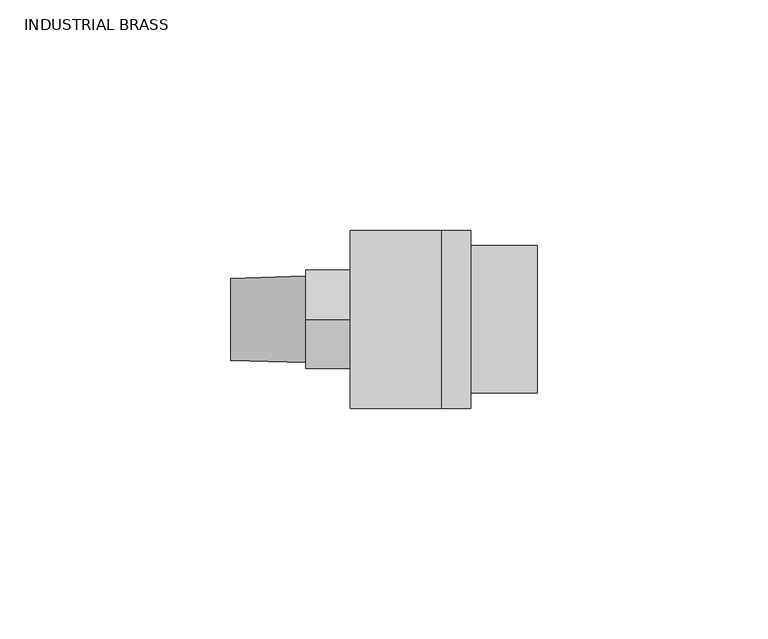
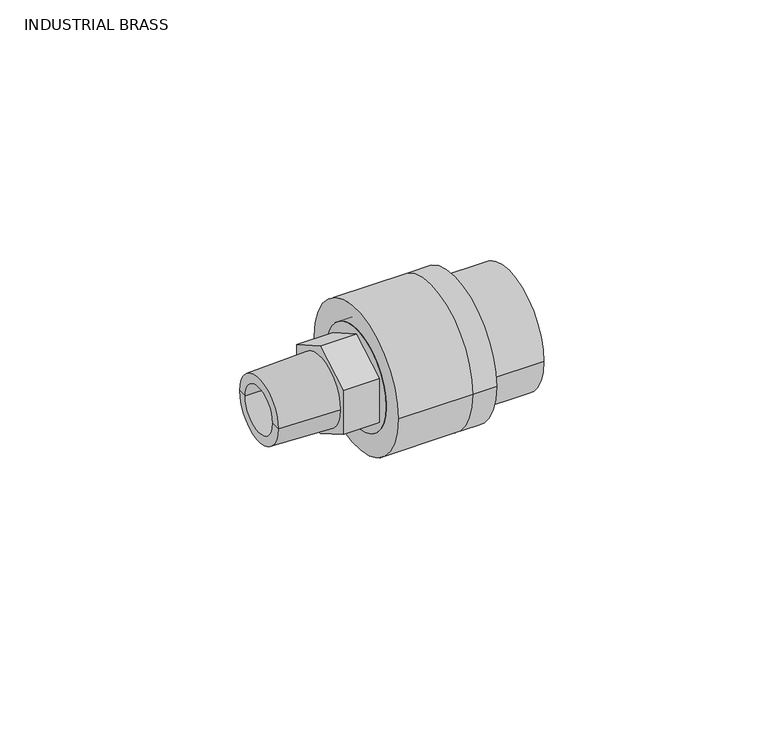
"""IFC4 building model written with IfcOpenShell, lengths in millimetres: valve geometry, Aquatherm - Transition Piece - M HEX : INDUSTRIAL BRASS."""

from ifc_helpers import new_model, si_unit, frame, origin, place, context, project, spatial, polyline, circle_curve, source, transform, mapped, element, save
from ifc_brep_helpers import plane_surface, cylinder_surface, revolved_surface, advanced_brep


def industrial_brass_5db29cf0(model_context):
    return source(origin(), model_context, "Body", "AdvancedBrep", [
        advanced_brep(
        [(19.812, -13.589, 0.0), (19.812, 13.589, 0.0), (19.812, -6.35, 0.0), (19.812, 6.35, 0.0), (0.0, -13.589, 0.0), (0.0, 13.589, 0.0), (0.0, 0.0, -12.3183453), (0.0, 10.668, -6.1591727), (0.0, 10.668, 6.1591727), (0.0, 0.0, 12.3183453), (0.0, -10.668, 6.1591727), (0.0, -10.668, -6.1591727), (0.0, -6.35, 0.0), (0.0, 6.35, 0.0), (-9.652, 0.0, -12.3183453), (-9.652, -10.668, -6.1591727), (-9.652, -10.668, 6.1591727), (-9.652, 0.0, 12.3183453), (-9.652, 10.668, 6.1591727), (-9.652, 10.668, -6.1591727), (-9.652, -9.3810449, 0.0), (-9.652, 9.3810449, 0.0), (-9.652, -6.35, 0.0), (-9.652, 6.35, 0.0), (-25.908, 6.35, 0.0), (-25.908, -6.35, 0.0), (-25.908, 8.8752051, 0.0), (-25.908, -8.8752051, 0.0)],
        [
            (0, 1, circle_curve(frame((19.812, 0.0, 0.0), z_axis=(1.0, 0.0, 0.0), x_axis=(0.0, 1.0, 0.0)), 13.589)),
            (1, 0, circle_curve(frame((19.812, 0.0, 0.0), z_axis=(1.0, 0.0, 0.0), x_axis=(0.0, 1.0, 0.0)), 13.589)),
            (2, 3, circle_curve(frame((19.812, 0.0, 0.0), z_axis=(-1.0, 0.0, 0.0), x_axis=(0.0, 1.0, 0.0)), 6.35)),
            (3, 2, circle_curve(frame((19.812, 0.0, 0.0), z_axis=(-1.0, 0.0, 0.0), x_axis=(0.0, 1.0, 0.0)), 6.35)),
            (4, 5, circle_curve(frame((0.0, 0.0, 0.0), z_axis=(-1.0, 0.0, 0.0), x_axis=(0.0, 1.0, 0.0)), 13.589)),
            (5, 4, circle_curve(frame((0.0, 0.0, 0.0), z_axis=(-1.0, 0.0, 0.0), x_axis=(0.0, 1.0, 0.0)), 13.589)),
            (6, 7),
            (7, 8),
            (8, 9),
            (9, 10),
            (10, 11),
            (11, 6),
            (0, 4),
            (5, 1),
            (2, 12),
            (12, 13, circle_curve(frame((0.0, 0.0, 0.0), z_axis=(-1.0, 0.0, 0.0), x_axis=(0.0, 1.0, 0.0)), 6.35)),
            (13, 3),
            (13, 12, circle_curve(frame((0.0, 0.0, 0.0), z_axis=(-1.0, 0.0, 0.0), x_axis=(0.0, 1.0, 0.0)), 6.35)),
            (14, 15),
            (15, 16),
            (16, 17),
            (17, 18),
            (18, 19),
            (19, 14),
            (20, 21, circle_curve(frame((-9.652, 0.0, 0.0), z_axis=(1.0, 0.0, 0.0), x_axis=(0.0, 1.0, 0.0)), 9.3810449)),
            (21, 20, circle_curve(frame((-9.652, 0.0, 0.0), z_axis=(1.0, 0.0, 0.0), x_axis=(0.0, 1.0, 0.0)), 9.3810449)),
            (19, 7),
            (6, 14),
            (18, 8),
            (17, 9),
            (16, 10),
            (15, 11),
            (12, 22),
            (22, 23, circle_curve(frame((-9.652, 0.0, 0.0), z_axis=(-1.0, 0.0, 0.0), x_axis=(0.0, 1.0, 0.0)), 6.35)),
            (23, 13),
            (23, 22, circle_curve(frame((-9.652, 0.0, 0.0), z_axis=(-1.0, 0.0, 0.0), x_axis=(0.0, 1.0, 0.0)), 6.35)),
            (23, 24),
            (24, 25, circle_curve(frame((-25.908, 0.0, 0.0), z_axis=(-1.0, 0.0, 0.0), x_axis=(0.0, 1.0, 0.0)), 6.35)),
            (25, 22),
            (25, 24, circle_curve(frame((-25.908, 0.0, 0.0), z_axis=(-1.0, 0.0, 0.0), x_axis=(0.0, 1.0, 0.0)), 6.35)),
            (24, 26),
            (26, 27, circle_curve(frame((-25.908, 0.0, 0.0), z_axis=(-1.0, 0.0, 0.0), x_axis=(0.0, 1.0, 0.0)), 8.8752051)),
            (27, 25),
            (27, 26, circle_curve(frame((-25.908, 0.0, 0.0), z_axis=(-1.0, 0.0, 0.0), x_axis=(0.0, 1.0, 0.0)), 8.8752051)),
            (26, 21),
            (20, 27),
        ],
        [
            plane_surface(frame((19.812, 13.589, 0.0), z_axis=(1.0, 0.0, 0.0), x_axis=(0.0, 0.0, 1.0))),
            plane_surface(frame((0.0, 13.589, 0.0), z_axis=(-1.0, 0.0, 0.0), x_axis=(0.0, 0.0, -1.0))),
            cylinder_surface(frame((0.0, 0.0, 0.0), z_axis=(1.0, 0.0, 0.0), x_axis=(0.0, 1.0, 0.0)), 13.589),
            revolved_surface(polyline([(0.0, 6.35, 0.0), (19.812, 6.35, 0.0)]), (17.447219, 0.0, 0.0), (-1.0, 0.0, 0.0)),
            plane_surface(frame((-9.652, 0.0, -12.3183453), z_axis=(-1.0, 0.0, 0.0), x_axis=(0.0, -0.8660254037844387, -0.49999999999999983))),
            plane_surface(frame((0.0, 0.0, -12.3183453), z_axis=(0.0, 0.49999999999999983, -0.8660254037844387), x_axis=(-1.0, 0.0, 0.0))),
            plane_surface(frame((0.0, 10.668, -6.1591727), z_axis=(0.0, 1.0, 0.0), x_axis=(-1.0, 0.0, 0.0))),
            plane_surface(frame((0.0, 10.668, 6.1591727), z_axis=(0.0, 0.499999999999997, 0.8660254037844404), x_axis=(-1.0, 0.0, 0.0))),
            plane_surface(frame((0.0, 0.0, 12.3183453), z_axis=(0.0, -0.5000000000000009, 0.8660254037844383), x_axis=(-1.0, 0.0, 0.0))),
            plane_surface(frame((0.0, -10.668, 6.1591727), z_axis=(0.0, -1.0, 0.0), x_axis=(-1.0, 0.0, 0.0))),
            plane_surface(frame((0.0, -10.668, -6.1591727), z_axis=(0.0, -0.49999999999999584, -0.8660254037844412), x_axis=(-1.0, 0.0, 0.0))),
            revolved_surface(polyline([(-9.652, 6.35, 0.0), (0.0, 6.35, 0.0)]), (0.0, 0.0, 0.0), (-1.0, 0.0, 0.0)),
            revolved_surface(polyline([(-25.908, 6.35, 0.0), (-9.652000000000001, 6.35, 0.0)]), (-60.7810688, 0.0, 0.0), (-1.0, 0.0, 0.0)),
            plane_surface(frame((-25.908, 0.0, 0.0), z_axis=(-1.0, 0.0, 0.0), x_axis=(0.0, 1.0, 0.0))),
            revolved_surface(polyline([(-9.652, 9.3810449, 0.0), (-25.908, 8.8752051, 0.0)]), (-60.7810688, 0.0, 0.0), (-1.0, 0.0, 0.0)),
        ],
        [
            (0, [[1, 2], [3, 4]]),
            (1, [[5, 6], [7, 8, 9, 10, 11, 12]]),
            (2, [[-1, 13, -6, 14]]),
            (2, [[-2, -14, -5, -13]]),
            (3, [[-3, 15, 16, 17]]),
            (3, [[-4, -17, 18, -15]]),
            (4, [[19, 20, 21, 22, 23, 24], [25, 26]]),
            (5, [[-24, 27, -7, 28]]),
            (6, [[-23, 29, -8, -27]]),
            (7, [[-22, 30, -9, -29]]),
            (8, [[-21, 31, -10, -30]]),
            (9, [[-20, 32, -11, -31]]),
            (10, [[-19, -28, -12, -32]]),
            (11, [[33, 34, 35, -16]]),
            (11, [[-33, -18, -35, 36]]),
            (12, [[37, 38, 39, -36]]),
            (12, [[-37, -34, -39, 40]]),
            (13, [[-38, 41, 42, 43]]),
            (13, [[-40, -43, 44, -41]]),
            (14, [[-42, 45, -25, 46]]),
            (14, [[-44, -46, -26, -45]]),
        ],
    ),
        advanced_brep(
        [(0.0, -19.304, 0.0), (0.0, 19.304, 0.0), (0.0, -13.589, 0.0), (0.0, 13.589, 0.0), (19.812, 19.304, 0.0), (19.812, -19.304, 0.0), (19.812, 13.589, 0.0), (19.812, -13.589, 0.0), (26.162, -19.304, 0.0), (26.162, 19.304, 0.0), (26.162, 16.002, 0.0), (26.162, -16.002, 0.0), (26.162, 10.033, 0.0), (26.162, -10.033, 0.0), (26.162, -6.35, 0.0), (26.162, 6.35, 0.0), (19.812, -6.35, 0.0), (19.812, 6.35, 0.0), (40.64, -16.002, 0.0), (40.64, 16.002, 0.0), (40.64, -10.033, 0.0), (40.64, 10.033, 0.0)],
        [
            (0, 1, circle_curve(frame((0.0, 0.0, 0.0), z_axis=(-1.0, 0.0, 0.0), x_axis=(0.0, 1.0, 0.0)), 19.304)),
            (1, 0, circle_curve(frame((0.0, 0.0, 0.0), z_axis=(-1.0, 0.0, 0.0), x_axis=(0.0, 1.0, 0.0)), 19.304)),
            (2, 3, circle_curve(frame((0.0, 0.0, 0.0), z_axis=(1.0, 0.0, 0.0), x_axis=(0.0, 1.0, 0.0)), 13.589)),
            (3, 2, circle_curve(frame((0.0, 0.0, 0.0), z_axis=(1.0, 0.0, 0.0), x_axis=(0.0, 1.0, 0.0)), 13.589)),
            (1, 4),
            (4, 5, circle_curve(frame((19.812, 0.0, 0.0), z_axis=(-1.0, 0.0, 0.0), x_axis=(0.0, 1.0, 0.0)), 19.304)),
            (5, 0),
            (5, 4, circle_curve(frame((19.812, 0.0, 0.0), z_axis=(-1.0, 0.0, 0.0), x_axis=(0.0, 1.0, 0.0)), 19.304)),
            (3, 6),
            (6, 7, circle_curve(frame((19.812, 0.0, 0.0), z_axis=(1.0, 0.0, 0.0), x_axis=(0.0, 1.0, 0.0)), 13.589)),
            (7, 2),
            (7, 6, circle_curve(frame((19.812, 0.0, 0.0), z_axis=(1.0, 0.0, 0.0), x_axis=(0.0, 1.0, 0.0)), 13.589)),
            (8, 9, circle_curve(frame((26.162, 0.0, 0.0), z_axis=(1.0, 0.0, 0.0), x_axis=(0.0, 1.0, 0.0)), 19.304)),
            (9, 8, circle_curve(frame((26.162, 0.0, 0.0), z_axis=(1.0, 0.0, 0.0), x_axis=(0.0, 1.0, 0.0)), 19.304)),
            (10, 11, circle_curve(frame((26.162, 0.0, 0.0), z_axis=(-1.0, 0.0, 0.0), x_axis=(0.0, 1.0, 0.0)), 16.002)),
            (11, 10, circle_curve(frame((26.162, 0.0, 0.0), z_axis=(-1.0, 0.0, 0.0), x_axis=(0.0, 1.0, 0.0)), 16.002)),
            (12, 13, circle_curve(frame((26.162, 0.0, 0.0), z_axis=(1.0, 0.0, 0.0), x_axis=(0.0, 1.0, 0.0)), 10.033)),
            (13, 12, circle_curve(frame((26.162, 0.0, 0.0), z_axis=(1.0, 0.0, 0.0), x_axis=(0.0, 1.0, 0.0)), 10.033)),
            (14, 15, circle_curve(frame((26.162, 0.0, 0.0), z_axis=(-1.0, 0.0, 0.0), x_axis=(0.0, 1.0, 0.0)), 6.35)),
            (15, 14, circle_curve(frame((26.162, 0.0, 0.0), z_axis=(-1.0, 0.0, 0.0), x_axis=(0.0, 1.0, 0.0)), 6.35)),
            (16, 17, circle_curve(frame((19.812, 0.0, 0.0), z_axis=(1.0, 0.0, 0.0), x_axis=(0.0, 1.0, 0.0)), 6.35)),
            (17, 16, circle_curve(frame((19.812, 0.0, 0.0), z_axis=(1.0, 0.0, 0.0), x_axis=(0.0, 1.0, 0.0)), 6.35)),
            (8, 5),
            (4, 9),
            (14, 16),
            (17, 15),
            (18, 19, circle_curve(frame((40.64, 0.0, 0.0), z_axis=(1.0, 0.0, 0.0), x_axis=(0.0, 1.0, 0.0)), 16.002)),
            (19, 18, circle_curve(frame((40.64, 0.0, 0.0), z_axis=(1.0, 0.0, 0.0), x_axis=(0.0, 1.0, 0.0)), 16.002)),
            (20, 21, circle_curve(frame((40.64, 0.0, 0.0), z_axis=(-1.0, 0.0, 0.0), x_axis=(0.0, 1.0, 0.0)), 10.033)),
            (21, 20, circle_curve(frame((40.64, 0.0, 0.0), z_axis=(-1.0, 0.0, 0.0), x_axis=(0.0, 1.0, 0.0)), 10.033)),
            (18, 11),
            (10, 19),
            (20, 13),
            (12, 21),
        ],
        [
            plane_surface(frame((0.0, 19.304, 0.0), z_axis=(-1.0, 0.0, 0.0), x_axis=(0.0, 0.0, -1.0))),
            cylinder_surface(frame((0.0, 0.0, 0.0), z_axis=(1.0, 0.0, 0.0), x_axis=(0.0, 1.0, 0.0)), 19.304),
            revolved_surface(polyline([(0.0, 13.589, 0.0), (19.812000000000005, 13.589, 0.0)]), (-38.1, 0.0, 0.0), (-1.0, 0.0, 0.0)),
            plane_surface(frame((26.162, 19.304, 0.0), z_axis=(1.0, 0.0, 0.0), x_axis=(0.0, 0.0, 1.0))),
            plane_surface(frame((19.812, 19.304, 0.0), z_axis=(-1.0, 0.0, 0.0), x_axis=(0.0, 0.0, -1.0))),
            cylinder_surface(frame((19.812, 0.0, 0.0), z_axis=(1.0, 0.0, 0.0), x_axis=(0.0, 1.0, 0.0)), 19.304),
            revolved_surface(polyline([(19.812, 6.35, 0.0), (26.162000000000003, 6.35, 0.0)]), (-19.05, 0.0, 0.0), (-1.0, 0.0, 0.0)),
            plane_surface(frame((40.64, 16.002, 0.0), z_axis=(1.0, 0.0, 0.0), x_axis=(0.0, 0.0, 1.0))),
            cylinder_surface(frame((26.162, 0.0, 0.0), z_axis=(1.0, 0.0, 0.0), x_axis=(0.0, 1.0, 0.0)), 16.002),
            revolved_surface(polyline([(26.162, 10.033, 0.0), (40.64, 10.033, 0.0)]), (0.0, 0.0, 0.0), (-1.0, 0.0, 0.0)),
        ],
        [
            (0, [[1, 2], [3, 4]]),
            (1, [[-2, 5, 6, 7]]),
            (1, [[-1, -7, 8, -5]]),
            (2, [[-4, 9, 10, 11]]),
            (2, [[-3, -11, 12, -9]]),
            (3, [[13, 14], [15, 16]]),
            (3, [[17, 18], [19, 20]]),
            (4, [[-10, -12], [21, 22]]),
            (5, [[-13, 23, -6, 24]]),
            (5, [[-14, -24, -8, -23]]),
            (6, [[-19, 25, -22, 26]]),
            (6, [[-20, -26, -21, -25]]),
            (7, [[27, 28], [29, 30]]),
            (8, [[-27, 31, -15, 32]]),
            (8, [[-28, -32, -16, -31]]),
            (9, [[-29, 33, -17, 34]]),
            (9, [[-30, -34, -18, -33]]),
        ],
    ),
    ])


if __name__ == "__main__":
    model = new_model("IFC4")
    model_context = context("Model", 3, world=origin())
    ifc_project = project(units=[si_unit("LENGTHUNIT", "METRE", prefix="MILLI")], contexts=[model_context])
    site = spatial("IfcSite", under=ifc_project)
    building = spatial("IfcBuilding", under=site)
    placement = place(None, origin())
    industrial_brass_shape = industrial_brass_5db29cf0(model_context)
    element("IfcValve", 1, ObjectType="Aquatherm - Transition Piece - M HEX : INDUSTRIAL BRASS", at=placement, inside=building, context=model_context, shape_type="MappedRepresentation", body=[
        mapped(industrial_brass_shape, transform((0.0, 0.0, 0.0), x_axis=(1.0, 0.0, 0.0), y_axis=(0.0, 1.0, 0.0), z_axis=(0.0, 0.0, 1.0))),
    ])
    save(model, "model.ifc")
